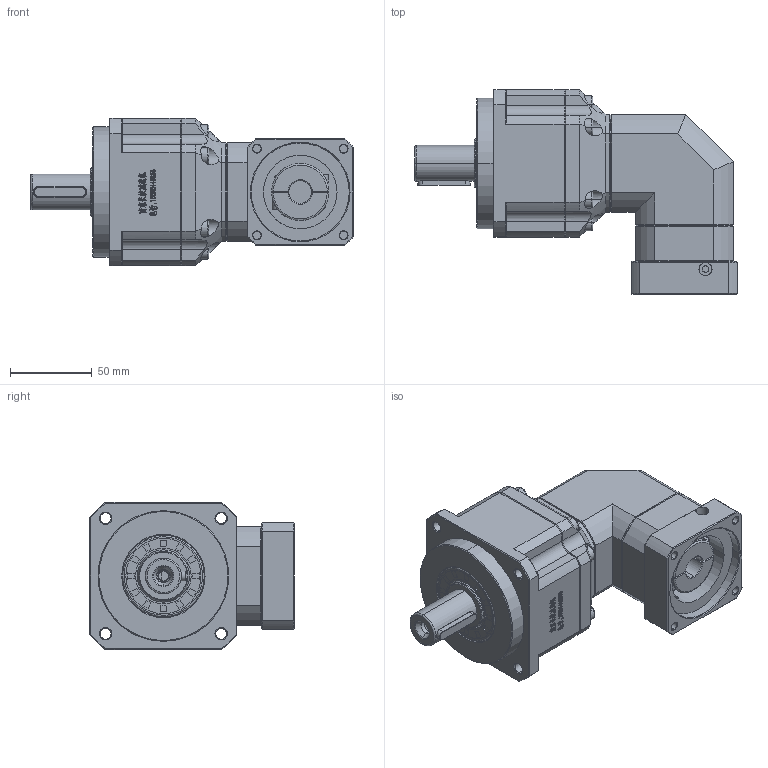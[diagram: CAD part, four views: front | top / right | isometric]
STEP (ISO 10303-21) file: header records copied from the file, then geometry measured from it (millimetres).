
FILE_DESCRIPTION (( 'STEP AP214' ), '1' );
FILE_NAME ('ZPBR090-D22-L2-P1-14-60-75-M6.STEP', '2024-06-09T10:57:50', ( 'Windows 蚚誧' ), ( 'Organization' ), 'SwSTEP 2.0', 'SolidWorks 2016', '' );
FILE_SCHEMA (( 'AUTOMOTIVE_DESIGN' ));
Length unit declared in the file: millimetre
Products named in the file (1): ZPBR090-D22-L2-P1-14-60-75-M6
Bounding box: 197.5 x 125 x 90 mm (x, y, z)
Surface area: 90605.2 mm2 (no closed solid volume)
Topology: 0 solids, 33 shells, 1988 faces, 5226 edges, 3323 vertices
Faces by surface type: plane 1080, bspline 397, cylinder 260, cone 251
Full cylindrical faces by diameter (mm): 6.72 x1
Entity records: 99266 total; most frequent: CARTESIAN_POINT 49107, ORIENTED_EDGE 10395, DIRECTION 8160, EDGE_CURVE 5226, VECTOR 3434, LINE 3434, VERTEX_POINT 3323, AXIS2_PLACEMENT_3D 2363
